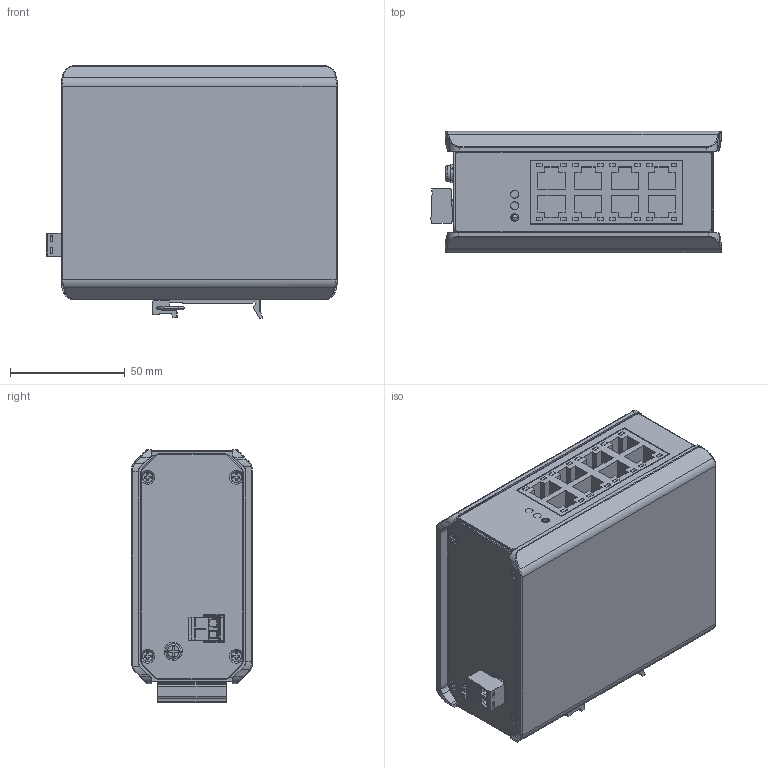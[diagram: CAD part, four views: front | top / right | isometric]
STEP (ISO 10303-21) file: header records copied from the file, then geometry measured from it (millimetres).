
FILE_DESCRIPTION((''),'2;1');
FILE_NAME('SWITCH_2008TX_ASM','2022-08-02T',('Jun.Chen'),(''),'PRO/ENGINEER BY PARAMETRIC TECHNOLOGY CORPORATION, 2015240','PRO/ENGINEER BY PARAMETRIC TECHNOLOGY CORPORATION, 2015240','');
FILE_SCHEMA(('CONFIG_CONTROL_DESIGN'));
Length unit declared in the file: millimetre
Products named in the file (36): PRT0001; PRT0002; ASM0004_ASM_ASM; PRT0003; PRT0004; PRT0005; ASM0005_ASM_ASM; PRT0006; PRT0007; PRT0008; PRT0009; PRT0010; ASM0007_ASM_ASM; ASM0006_ASM_ASM; ASM0003_ASM_ASM; PRT0011; PRT0012; PRT0013; PRT0019; DINKLE_5EHDRC-02P_7; DINKLE_5ESDV-02P_3; DINKLE_5EHDRC-02P_ASM_1_ASM_ASM; ASM0008_ASM_ASM; PRT0020; PRT0021; ASM0009_ASM_ASM; PRT0022; PRT0023; PRT0024; PRT0025; PRT0026; PRT0027; ASM0010_ASM_ASM; ASM0002_ASM_ASM; ASM0001_ASM_ASM; SWITCH_2008TX_ASM
Assembly tree (49 placements, depth 7):
  SWITCH_2008TX_ASM
    ASM0001_ASM_ASM
      ASM0002_ASM_ASM
        ASM0003_ASM_ASM
          ASM0004_ASM_ASM
            PRT0001
            PRT0002  x2
          ASM0005_ASM_ASM
            PRT0003
            PRT0004  x3
            PRT0005
          PRT0006
          PRT0007
          ASM0006_ASM_ASM
            PRT0008
            ASM0007_ASM_ASM
              PRT0009
              PRT0010
        ASM0008_ASM_ASM
          PRT0011
          PRT0012
          PRT0013
          PRT0019
          DINKLE_5EHDRC-02P_ASM_1_ASM_ASM
            DINKLE_5EHDRC-02P_7
            DINKLE_5ESDV-02P_3
        ASM0009_ASM_ASM
          PRT0020
          PRT0021
        PRT0022
        PRT0023  x8
        PRT0024  x2
        ASM0010_ASM_ASM  x4
          PRT0025
          PRT0026
          PRT0027
Bounding box: 126.58 x 52.7 x 110.06 mm (x, y, z)
Volume: 197507.8 mm3; surface area: 144268.3 mm2
Topology: 44 solids, 44 shells, 1796 faces, 4803 edges, 3185 vertices
Faces by surface type: plane 972, cylinder 568, cone 128, torus 64, bspline 50, sphere 14
Entity records: 49874 total; most frequent: CARTESIAN_POINT 15166, DIRECTION 7145, ORIENTED_EDGE 7086, EDGE_CURVE 3543, AXIS2_PLACEMENT_3D 2424, VERTEX_POINT 2330, VECTOR 2297, LINE 2297
